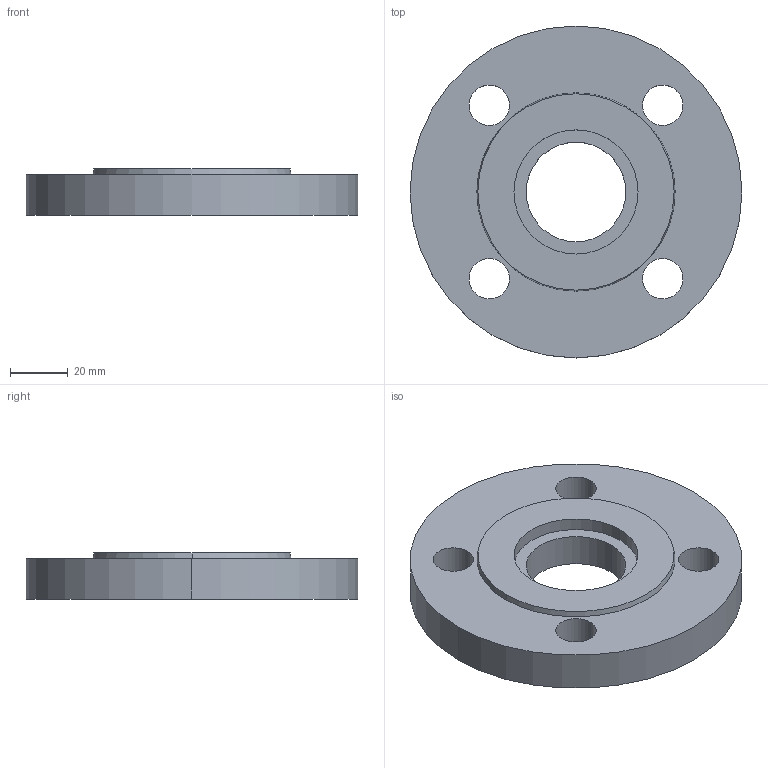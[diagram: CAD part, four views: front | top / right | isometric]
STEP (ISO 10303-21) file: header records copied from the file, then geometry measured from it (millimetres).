
FILE_DESCRIPTION (( 'STEP AP214' ), '1' );
FILE_NAME ('PN40 DN25 Type 01 - Type G Face.STEP', '2018-12-29T20:38:00', ( '' ), ( '' ), 'SwSTEP 2.0', 'SolidWorks 2019', '' );
FILE_SCHEMA (( 'AUTOMOTIVE_DESIGN' ));
Length unit declared in the file: millimetre
Products named in the file (1): PN40 DN25 Type 01 - Type G Face
Bounding box: 115 x 115 x 16 mm (x, y, z)
Volume: 126849.6 mm3; surface area: 27408.3 mm2
Topology: 1 solids, 1 shells, 20 faces, 48 edges, 32 vertices
Faces by surface type: cylinder 14, plane 4, cone 2
Entity records: 658 total; most frequent: DIRECTION 122, CARTESIAN_POINT 101, ORIENTED_EDGE 96, AXIS2_PLACEMENT_3D 53, EDGE_CURVE 48, CIRCLE 32, VERTEX_POINT 32, EDGE_LOOP 32
